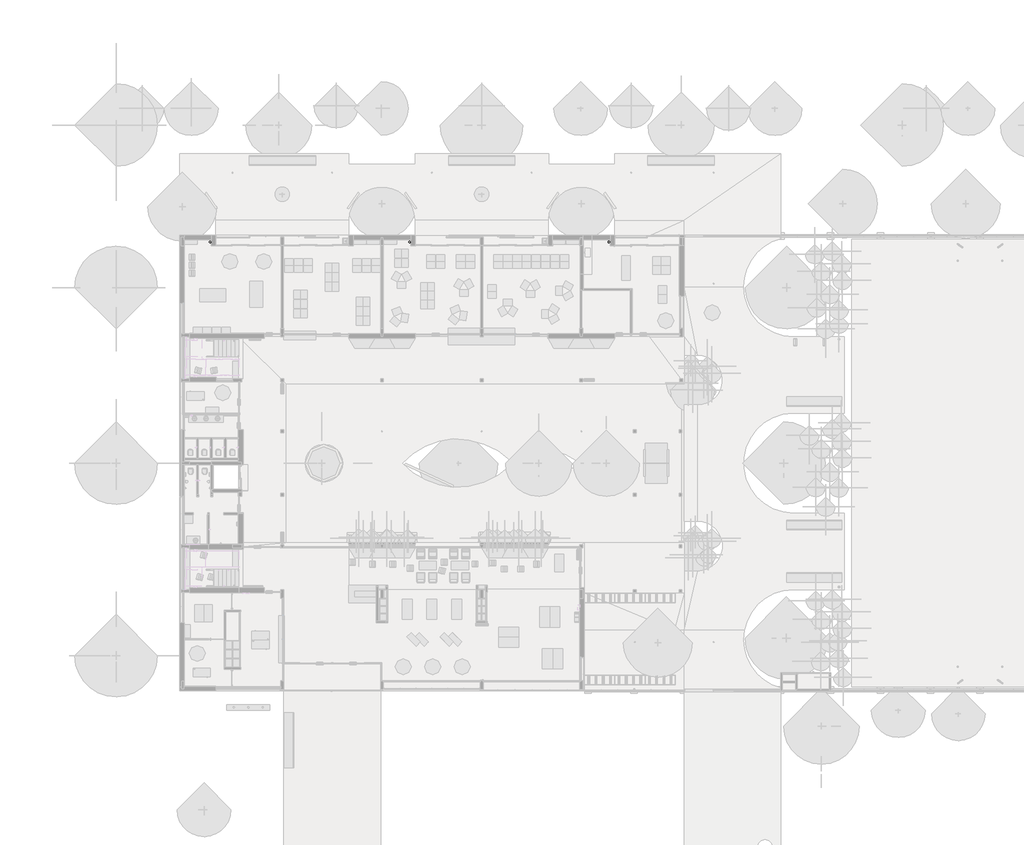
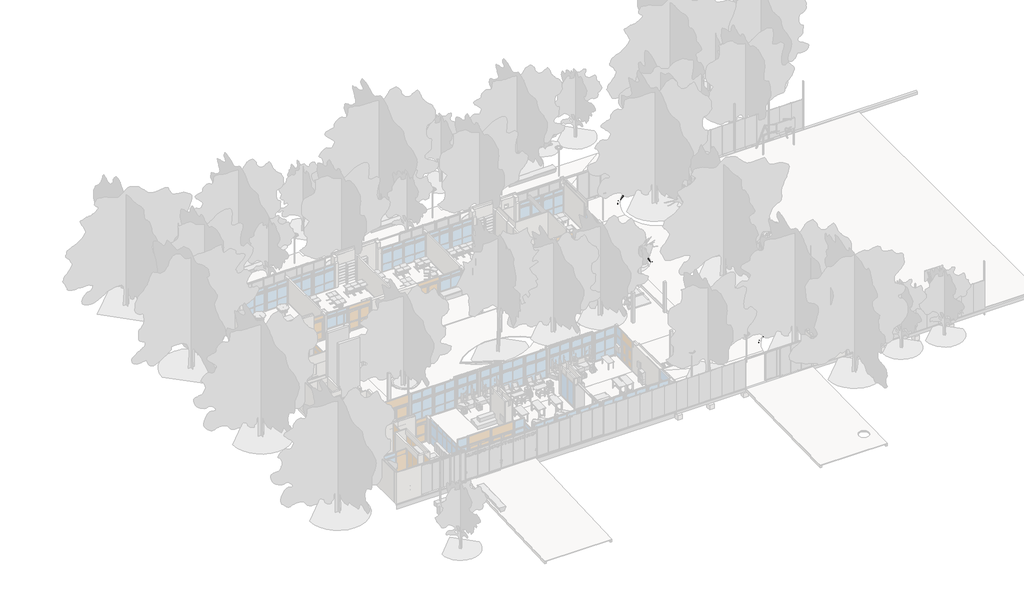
# One storey, part 10 of 22: 2 slabs.
"""IFC4 building model written with IfcOpenShell, lengths in millimetres."""

from ifc_helpers import new_model, si_unit, frame, origin, place, context, project, spatial, polyline, circle_curve, outline, extrude, element, save
from ifc_brep_helpers import plane_surface, revolved_surface, advanced_brep

model = new_model("IFC4")

# Units and contexts
model_context = context("Model", 3, world=origin())
ifc_project = project(units=[si_unit("LENGTHUNIT", "METRE", prefix="MILLI")], contexts=[model_context])

# Site, building, storey
site = spatial("IfcSite", under=ifc_project)
building = spatial("IfcBuilding", under=site)
storey = spatial("IfcBuildingStorey", under=building, Name="PLanta baja", Elevation=0.0)

# Slabs
placement = place(None, origin())
element("IfcSlab", 1, ObjectType="LOSA-INT-HA-11cm-PET", at=placement, inside=storey, context=model_context, shape_type="SweptSolid", body=[
    extrude(outline(polyline([(7168.7173694, 21620.2304035), (7168.7173694, 19420.2304035), (3388.7173693, 19420.2304035), (3388.7173693, 21620.2304035), (7168.7173694, 21620.2304035)])), frame((0.0, 0.0, -160.0), z_axis=(0.0, 0.0, 1.0), x_axis=(1.0, 0.0, 0.0)), (0.0, 0.0, 1.0), 110.0),
    extrude(outline(polyline([(6663.7173693, 31420.2304035), (6663.7173693, 28245.2304035), (3388.7173693, 28245.2304035), (3388.7173693, 31420.2304035), (6663.7173693, 31420.2304035)])), frame((0.0, 0.0, -160.0), z_axis=(0.0, 0.0, 1.0), x_axis=(1.0, 0.0, 0.0)), (0.0, 0.0, 1.0), 110.0),
    extrude(outline(polyline([(3388.7173693, 28095.2304035), (6663.7173693, 28095.2304035), (6663.7173693, 24920.2304035), (3388.7173693, 24920.2304035), (3388.7173693, 28095.2304035)])), frame((0.0, 0.0, -160.0), z_axis=(0.0, 0.0, 1.0), x_axis=(1.0, 0.0, 0.0)), (0.0, 0.0, 1.0), 110.0),
    extrude(outline(polyline([(6813.7173693, 24920.2304035), (6813.7173693, 28095.2304035), (10088.7173694, 28095.2304035), (10088.7173694, 24920.2304035), (6813.7173693, 24920.2304035)])), frame((0.0, 0.0, -160.0), z_axis=(0.0, 0.0, 1.0), x_axis=(1.0, 0.0, 0.0)), (0.0, 0.0, 1.0), 110.0),
    extrude(outline(polyline([(10088.7173694, 28245.2304035), (6813.7173693, 28245.2304035), (6813.7173693, 31420.2304035), (10088.7173694, 31420.2304035), (10088.7173694, 28245.2304035)])), frame((0.0, 0.0, -160.0), z_axis=(0.0, 0.0, 1.0), x_axis=(1.0, 0.0, 0.0)), (0.0, 0.0, 1.0), 110.0),
    extrude(outline(polyline([(13563.7173693, 31420.2304035), (13563.7173693, 28245.2304035), (10288.7173694, 28245.2304035), (10288.7173694, 31420.2304035), (13563.7173693, 31420.2304035)])), frame((0.0, 0.0, -160.0), z_axis=(0.0, 0.0, 1.0), x_axis=(1.0, 0.0, 0.0)), (0.0, 0.0, 1.0), 110.0),
    extrude(outline(polyline([(10288.7173694, 28095.2304035), (13563.7173693, 28095.2304035), (13563.7173693, 24920.2304035), (10288.7173694, 24920.2304035), (10288.7173694, 28095.2304035)])), frame((0.0, 0.0, -160.0), z_axis=(0.0, 0.0, 1.0), x_axis=(1.0, 0.0, 0.0)), (0.0, 0.0, 1.0), 110.0),
    extrude(outline(polyline([(13713.7173693, 24920.2304035), (13713.7173693, 28095.2304035), (16988.7173694, 28095.2304035), (16988.7173694, 24920.2304035), (13713.7173693, 24920.2304035)])), frame((0.0, 0.0, -160.0), z_axis=(0.0, 0.0, 1.0), x_axis=(1.0, 0.0, 0.0)), (0.0, 0.0, 1.0), 110.0),
    extrude(outline(polyline([(16988.7173694, 28245.2304035), (13713.7173693, 28245.2304035), (13713.7173693, 31420.2304035), (16988.7173694, 31420.2304035), (16988.7173694, 28245.2304035)])), frame((0.0, 0.0, -160.0), z_axis=(0.0, 0.0, 1.0), x_axis=(1.0, 0.0, 0.0)), (0.0, 0.0, 1.0), 110.0),
    extrude(outline(polyline([(20463.7173694, 31420.2304035), (20463.7173694, 28245.2304035), (17188.7173694, 28245.2304035), (17188.7173694, 31420.2304035), (20463.7173694, 31420.2304035)])), frame((0.0, 0.0, -160.0), z_axis=(0.0, 0.0, 1.0), x_axis=(1.0, 0.0, 0.0)), (0.0, 0.0, 1.0), 110.0),
    extrude(outline(polyline([(17188.7173694, 28095.2304035), (20463.7173694, 28095.2304035), (20463.7173694, 24920.2304035), (17188.7173694, 24920.2304035), (17188.7173694, 28095.2304035)])), frame((0.0, 0.0, -160.0), z_axis=(0.0, 0.0, 1.0), x_axis=(1.0, 0.0, 0.0)), (0.0, 0.0, 1.0), 110.0),
    extrude(outline(polyline([(20613.7173694, 24920.2304035), (20613.7173694, 28095.2304035), (23888.7173694, 28095.2304035), (23888.7173694, 24920.2304035), (20613.7173694, 24920.2304035)])), frame((0.0, 0.0, -160.0), z_axis=(0.0, 0.0, 1.0), x_axis=(1.0, 0.0, 0.0)), (0.0, 0.0, 1.0), 110.0),
    extrude(outline(polyline([(23888.7173694, 28245.2304035), (20613.7173694, 28245.2304035), (20613.7173694, 31420.2304035), (23888.7173694, 31420.2304035), (23888.7173694, 28245.2304035)])), frame((0.0, 0.0, -160.0), z_axis=(0.0, 0.0, 1.0), x_axis=(1.0, 0.0, 0.0)), (0.0, 0.0, 1.0), 110.0),
    extrude(outline(polyline([(27363.7173693, 31420.2304035), (27363.7173693, 28245.2304035), (24088.7173694, 28245.2304035), (24088.7173694, 31420.2304035), (27363.7173693, 31420.2304035)])), frame((0.0, 0.0, -160.0), z_axis=(0.0, 0.0, 1.0), x_axis=(1.0, 0.0, 0.0)), (0.0, 0.0, 1.0), 110.0),
    extrude(outline(polyline([(24088.7173694, 28095.2304035), (27363.7173693, 28095.2304035), (27363.7173693, 24920.2304035), (24088.7173694, 24920.2304035), (24088.7173694, 28095.2304035)])), frame((0.0, 0.0, -160.0), z_axis=(0.0, 0.0, 1.0), x_axis=(1.0, 0.0, 0.0)), (0.0, 0.0, 1.0), 110.0),
    extrude(outline(polyline([(27513.7173693, 24920.2304035), (27513.7173693, 28095.2304035), (30788.7173693, 28095.2304035), (30788.7173693, 24920.2304035), (27513.7173693, 24920.2304035)])), frame((0.0, 0.0, -160.0), z_axis=(0.0, 0.0, 1.0), x_axis=(1.0, 0.0, 0.0)), (0.0, 0.0, 1.0), 110.0),
    extrude(outline(polyline([(30788.7173693, 28245.2304035), (27513.7173693, 28245.2304035), (27513.7173693, 31420.2304035), (30788.7173693, 31420.2304035), (30788.7173693, 28245.2304035)])), frame((0.0, 0.0, -160.0), z_axis=(0.0, 0.0, 1.0), x_axis=(1.0, 0.0, 0.0)), (0.0, 0.0, 1.0), 110.0),
    extrude(outline(polyline([(34263.7173693, 31420.2304035), (34263.7173693, 28245.2304035), (30988.7173693, 28245.2304035), (30988.7173693, 31420.2304035), (34263.7173693, 31420.2304035)])), frame((0.0, 0.0, -160.0), z_axis=(0.0, 0.0, 1.0), x_axis=(1.0, 0.0, 0.0)), (0.0, 0.0, 1.0), 110.0),
    extrude(outline(polyline([(30988.7173693, 28095.2304035), (34263.7173693, 28095.2304035), (34263.7173693, 24920.2304035), (30988.7173693, 24920.2304035), (30988.7173693, 28095.2304035)])), frame((0.0, 0.0, -160.0), z_axis=(0.0, 0.0, 1.0), x_axis=(1.0, 0.0, 0.0)), (0.0, 0.0, 1.0), 110.0),
    extrude(outline(polyline([(34413.7173693, 24920.2304035), (34413.7173693, 28095.2304035), (37688.7173693, 28095.2304035), (37688.7173693, 24920.2304035), (34413.7173693, 24920.2304035)])), frame((0.0, 0.0, -160.0), z_axis=(0.0, 0.0, 1.0), x_axis=(1.0, 0.0, 0.0)), (0.0, 0.0, 1.0), 110.0),
    extrude(outline(polyline([(37688.7173693, 28245.2304035), (34413.7173693, 28245.2304035), (34413.7173693, 31420.2304035), (37688.7173693, 31420.2304035), (37688.7173693, 28245.2304035)])), frame((0.0, 0.0, -160.0), z_axis=(0.0, 0.0, 1.0), x_axis=(1.0, 0.0, 0.0)), (0.0, 0.0, 1.0), 110.0),
])
element("IfcSlab", 2, ObjectType="Sub base Green Block 40 cm", at=placement, inside=storey, context=model_context, shape_type="AdvancedBrep", body=[
    advanced_brep(
    [(44688.7173693, 210.2304035, -550.0), (37998.4930104, 210.2304035, -550.0), (37998.4930104, 8355.2304035, -550.0), (38943.1270902, 8355.2304035, -550.0), (38943.1270902, 12105.2304035, -550.0), (37998.4930104, 12105.2304035, -550.0), (37998.4930104, 19845.2304035, -550.0), (38943.1270902, 19845.2304035, -550.0), (38943.1270902, 23585.2304035, -550.0), (37888.7173693, 23585.2304035, -550.0), (37888.7173693, 24720.3804035, -550.0), (37888.7173693, 31620.2304035, -550.0), (37888.7173693, 31730.2304035, -550.0), (33338.7173693, 31730.2304035, -550.0), (33338.7173693, 32780.2304035, -550.0), (28438.7173693, 32780.2304035, -550.0), (28438.7173693, 31620.2304035, -550.0), (19388.7173693, 31620.2304035, -550.0), (19388.7173693, 32780.2304035, -550.0), (14788.7173693, 32780.2304035, -550.0), (14788.7173693, 31730.2304035, -550.0), (5588.7173693, 31730.2304035, -550.0), (5588.7173693, 32780.2304035, -550.0), (3288.7173693, 35080.2304035, -550.0), (3078.7173694, 35080.2304035, -550.0), (3078.7173694, 37370.2304035, -550.0), (14788.7173693, 37370.2304035, -550.0), (14788.7173693, 36669.2072726, -550.0), (19388.7173693, 36669.2072726, -550.0), (19388.7173693, 37370.2304035, -550.0), (28646.6750048, 37370.2304035, -550.0), (28646.6750048, 36669.2072726, -550.0), (33188.7173693, 36669.2072726, -550.0), (33188.7173693, 37370.2304035, -550.0), (44688.7173693, 37370.2304035, -550.0), (44688.7173693, 31665.6687102, -550.0), (45550.0599516, 24570.2304035, -550.0), (49097.2173693, 24570.2304035, -550.0), (49097.2173693, 19570.2304035, -550.0), (45550.0599516, 19570.2304035, -550.0), (45550.0599516, 12370.2304035, -550.0), (49097.2173693, 12370.2304035, -550.0), (49097.2173693, 7370.2298588, -550.0), (45550.0665822, 7370.2298588, -550.0), (44688.7173693, 274.7931861, -550.0), (24638.7173693, 34580.2304035, -550.0), (23338.7173693, 34580.2304035, -550.0), (10838.7173693, 34580.2304035, -550.0), (9538.7173693, 34580.2304035, -550.0), (44688.7173693, 37370.2304035, -150.0), (33188.7173693, 37370.2304035, -150.0), (33188.7173693, 36669.2072726, -150.0), (28646.6750048, 36669.2072726, -150.0), (28646.6750048, 37370.2304035, -150.0), (19388.7173693, 37370.2304035, -150.0), (19388.7173693, 36669.2072726, -150.0), (14788.7173693, 36669.2072726, -150.0), (14788.7173693, 37370.2304035, -150.0), (3078.7173694, 37370.2304035, -150.0), (3078.7173694, 35080.2304035, -150.0), (3288.7173693, 35080.2304035, -150.0), (5588.7173693, 32780.2304035, -150.0), (5588.7173693, 31730.2304035, -150.0), (14788.7173693, 31730.2304035, -150.0), (14788.7173693, 32780.2304035, -150.0), (19388.7173693, 32780.2304035, -150.0), (19388.7173693, 31730.2304035, -150.0), (28438.7173693, 31730.2304035, -150.0), (28438.7173693, 32780.2304035, -150.0), (33338.7173693, 32780.2304035, -150.0), (33338.7173693, 31730.2304035, -150.0), (37998.7173693, 31730.2304035, -150.0), (37998.7173693, 23585.2304035, -150.0), (38943.1270902, 23585.2304035, -150.0), (38943.1270902, 19845.2304035, -150.0), (37998.7173693, 19845.2304035, -150.0), (37998.4930104, 19845.2304035, -150.0), (37998.4930104, 12105.2304035, -150.0), (37998.7173693, 12105.2304035, -150.0), (38943.1270902, 12105.2304035, -150.0), (38943.1270902, 8355.2304035, -150.0), (37998.7173693, 8355.2304035, -150.0), (37998.4930104, 8355.2304035, -150.0), (37998.4930104, 360.2304035, -150.0), (44395.985253, 360.2304035, -150.0), (45550.0665822, 7370.2298588, -150.0), (49097.2173693, 7370.2298588, -150.0), (49097.2173693, 12370.2304035, -150.0), (45550.0599516, 12370.2304035, -150.0), (45550.0599516, 19570.2304035, -150.0), (49097.2173693, 19570.2304035, -150.0), (49097.2173693, 24570.2304035, -150.0), (45550.0599516, 24570.2304035, -150.0), (44418.8237967, 31587.8764884, -150.0), (38006.0173693, 31587.8764884, -150.0), (38006.0173693, 31787.8764884, -150.0), (44688.7173693, 31787.8764884, -150.0), (23338.7173693, 34580.2304035, -150.0), (24638.7173693, 34580.2304035, -150.0), (9538.7173693, 34580.2304035, -150.0), (10838.7173693, 34580.2304035, -150.0), (44688.7173693, 210.2304035, -350.0), (37998.4930104, 210.2304035, -350.0), (37888.7173693, 31730.2304035, -160.0), (37888.7173693, 23585.2304035, -190.0), (37888.7173693, 24720.3804035, -190.0), (37888.7173693, 24720.3804035, -160.0), (37888.7173693, 31620.2304035, -160.0), (37888.7173693, 31700.2304035, -160.0), (37888.7173693, 31710.2304035, -150.0), (37888.7173693, 31720.2304035, -160.0), (37998.4930104, 360.2304035, -350.0), (37998.4930104, 360.2304035, -290.0), (37998.4930104, 8355.2304035, -290.0), (37998.4930104, 12105.2304035, -290.0), (37998.4930104, 19845.2304035, -290.0), (44688.7173693, 31787.8764884, -350.0), (44688.7173693, 31665.6687102, -350.0), (37998.7173693, 31730.2304035, -160.0), (19388.7173693, 31730.2304035, -160.0), (28438.7173693, 31730.2304035, -160.0), (28438.7173693, 31720.2304035, -160.0), (28438.7173693, 31710.2304035, -150.0), (28438.7173693, 31700.2304035, -160.0), (28438.7173693, 31620.2304035, -160.0), (19388.7173693, 31620.2304035, -160.0), (19388.7173693, 31700.2304035, -160.0), (19388.7173693, 31710.2304035, -150.0), (19388.7173693, 31720.2304035, -160.0), (14788.7173693, 31730.2304035, -160.0), (5588.7173693, 31730.2304035, -160.0), (44688.7173693, 274.7931861, -350.0), (37998.7173693, 23585.2304035, -190.0), (44418.8237967, 31587.8764884, -350.0), (44395.985253, 360.2304035, -350.0), (37968.7173693, 31700.2304035, -160.0), (37978.7173693, 31710.2304035, -150.0), (37988.7173693, 31720.2304035, -160.0), (37988.7173693, 24720.3804035, -160.0), (37998.7173693, 24720.3804035, -160.0), (37968.7173693, 24720.3804035, -160.0), (37978.7173693, 24720.3804035, -150.0), (37998.7173693, 24720.3804035, -190.0), (38006.0173693, 31587.8764884, -350.0), (38006.0173693, 31787.8764884, -350.0)],
    [
        (0, 1),
        (1, 2),
        (2, 3),
        (3, 4, circle_curve(frame((38943.1270902, 10230.2304035, -550.0), z_axis=(0.0, 0.0, 1.0), x_axis=(1.0, 0.0, 0.0)), 1875.0)),
        (4, 5),
        (5, 6),
        (6, 7),
        (7, 8, circle_curve(frame((38943.1270902, 21715.2304035, -550.0), z_axis=(0.0, 0.0, 1.0), x_axis=(1.0, 0.0, 0.0)), 1870.0)),
        (8, 9),
        (9, 10),
        (10, 11),
        (11, 12),
        (12, 13),
        (13, 14),
        (14, 15, circle_curve(frame((30888.7173693, 32780.2304035, -550.0), z_axis=(0.0, 0.0, 1.0), x_axis=(1.0, 0.0, 0.0)), 2450.0)),
        (15, 16),
        (16, 17),
        (17, 18),
        (18, 19, circle_curve(frame((17088.7173693, 32780.2304035, -550.0), z_axis=(0.0, 0.0, 1.0), x_axis=(1.0, 0.0, 0.0)), 2300.0)),
        (19, 20),
        (20, 21),
        (21, 22),
        (22, 23, circle_curve(frame((3288.7173693, 32780.2304035, -550.0), z_axis=(0.0, 0.0, 1.0), x_axis=(1.0, 0.0, 0.0)), 2300.0)),
        (23, 24),
        (24, 25),
        (25, 26),
        (26, 27),
        (27, 28),
        (28, 29),
        (29, 30),
        (30, 31),
        (31, 32),
        (32, 33),
        (33, 34),
        (34, 35),
        (35, 36, circle_curve(frame((45550.0599516, 28170.2304035, -550.0), z_axis=(0.0, 0.0, 1.0), x_axis=(1.0, 0.0, 0.0)), 3600.0)),
        (36, 37),
        (37, 38),
        (38, 39),
        (39, 40, circle_curve(frame((45550.0599516, 15970.2304035, -550.0), z_axis=(0.0, 0.0, 1.0), x_axis=(1.0, 0.0, 0.0)), 3600.0)),
        (40, 41),
        (41, 42),
        (42, 43),
        (43, 44, circle_curve(frame((45550.0665822, 3770.2298588, -550.0), z_axis=(0.0, 0.0, 1.0), x_axis=(1.0, 0.0, 0.0)), 3600.0)),
        (44, 0),
        (45, 46, circle_curve(frame((23988.7173693, 34580.2304035, -550.0), z_axis=(0.0, 0.0, 1.0), x_axis=(1.0, 0.0, 0.0)), 650.0)),
        (46, 45, circle_curve(frame((23988.7173693, 34580.2304035, -550.0), z_axis=(0.0, 0.0, 1.0), x_axis=(1.0, 0.0, 0.0)), 650.0)),
        (47, 48, circle_curve(frame((10188.7173693, 34580.2304035, -550.0), z_axis=(0.0, 0.0, 1.0), x_axis=(1.0, 0.0, 0.0)), 650.0)),
        (48, 47, circle_curve(frame((10188.7173693, 34580.2304035, -550.0), z_axis=(0.0, 0.0, 1.0), x_axis=(1.0, 0.0, 0.0)), 650.0)),
        (49, 50),
        (50, 51),
        (51, 52),
        (52, 53),
        (53, 54),
        (54, 55),
        (55, 56),
        (56, 57),
        (57, 58),
        (58, 59),
        (59, 60),
        (60, 61, circle_curve(frame((3288.7173693, 32780.2304035, -150.0), z_axis=(0.0, 0.0, -1.0), x_axis=(1.0, 0.0, 0.0)), 2300.0)),
        (61, 62),
        (62, 63),
        (63, 64),
        (64, 65, circle_curve(frame((17088.7173693, 32780.2304035, -150.0), z_axis=(0.0, 0.0, -1.0), x_axis=(1.0, 0.0, 0.0)), 2300.0)),
        (65, 66),
        (66, 67),
        (67, 68),
        (68, 69, circle_curve(frame((30888.7173693, 32780.2304035, -150.0), z_axis=(0.0, 0.0, -1.0), x_axis=(1.0, 0.0, 0.0)), 2450.0)),
        (69, 70),
        (70, 71),
        (71, 72),
        (72, 73),
        (73, 74, circle_curve(frame((38943.1270902, 21715.2304035, -150.0), z_axis=(0.0, 0.0, -1.0), x_axis=(1.0, 0.0, 0.0)), 1870.0)),
        (74, 75),
        (75, 76),
        (76, 77),
        (77, 78),
        (78, 79),
        (79, 80, circle_curve(frame((38943.1270902, 10230.2304035, -150.0), z_axis=(0.0, 0.0, -1.0), x_axis=(1.0, 0.0, 0.0)), 1875.0)),
        (80, 81),
        (81, 82),
        (82, 83),
        (83, 84),
        (84, 85, circle_curve(frame((45550.0665822, 3770.2298588, -150.0), z_axis=(0.0, 0.0, -1.0), x_axis=(1.0, 0.0, 0.0)), 3600.0)),
        (85, 86),
        (86, 87),
        (87, 88),
        (88, 89, circle_curve(frame((45550.0599516, 15970.2304035, -150.0), z_axis=(0.0, 0.0, -1.0), x_axis=(1.0, 0.0, 0.0)), 3600.0)),
        (89, 90),
        (90, 91),
        (91, 92),
        (92, 93, circle_curve(frame((45550.0599516, 28170.2304035, -150.0), z_axis=(0.0, 0.0, -1.0), x_axis=(1.0, 0.0, 0.0)), 3600.0)),
        (93, 94),
        (94, 95),
        (95, 96),
        (96, 49),
        (97, 98, circle_curve(frame((23988.7173693, 34580.2304035, -150.0), z_axis=(0.0, 0.0, -1.0), x_axis=(1.0, 0.0, 0.0)), 650.0)),
        (98, 97, circle_curve(frame((23988.7173693, 34580.2304035, -150.0), z_axis=(0.0, 0.0, -1.0), x_axis=(1.0, 0.0, 0.0)), 650.0)),
        (99, 100, circle_curve(frame((10188.7173693, 34580.2304035, -150.0), z_axis=(0.0, 0.0, -1.0), x_axis=(1.0, 0.0, 0.0)), 650.0)),
        (100, 99, circle_curve(frame((10188.7173693, 34580.2304035, -150.0), z_axis=(0.0, 0.0, -1.0), x_axis=(1.0, 0.0, 0.0)), 650.0)),
        (0, 101),
        (101, 102),
        (102, 1),
        (103, 12),
        (9, 104),
        (104, 105),
        (105, 106),
        (106, 107),
        (107, 108),
        (108, 109),
        (109, 110),
        (110, 103),
        (33, 50),
        (49, 34),
        (37, 91),
        (90, 38),
        (102, 111),
        (111, 112),
        (112, 83),
        (82, 113),
        (113, 2),
        (5, 114),
        (114, 77),
        (76, 115),
        (115, 6),
        (96, 116),
        (116, 117),
        (117, 35),
        (41, 87),
        (86, 42),
        (103, 118),
        (118, 71),
        (70, 13),
        (66, 119),
        (119, 120),
        (120, 67),
        (69, 14),
        (15, 68),
        (120, 121),
        (121, 122),
        (122, 123),
        (123, 124),
        (124, 16),
        (124, 125),
        (125, 17),
        (125, 126),
        (126, 127),
        (127, 128),
        (128, 119),
        (65, 18),
        (19, 64),
        (63, 129),
        (129, 20),
        (62, 130),
        (130, 21),
        (61, 22),
        (25, 58),
        (57, 26),
        (56, 27),
        (55, 28),
        (54, 29),
        (53, 30),
        (52, 31),
        (51, 32),
        (23, 60),
        (59, 24),
        (89, 39),
        (40, 88),
        (36, 92),
        (44, 131),
        (131, 101),
        (80, 3),
        (79, 4),
        (74, 7),
        (73, 8),
        (72, 132),
        (132, 104),
        (117, 133, circle_curve(frame((45550.0599516, 28170.2304035, -350.0), z_axis=(0.0, 0.0, 1.0), x_axis=(1.0, 0.0, 0.0)), 3600.0)),
        (133, 93),
        (85, 43),
        (84, 134),
        (134, 131, circle_curve(frame((45550.0665822, 3770.2298588, -350.0), z_axis=(0.0, 0.0, 1.0), x_axis=(1.0, 0.0, 0.0)), 3600.0)),
        (45, 98),
        (97, 46),
        (47, 100),
        (99, 48),
        (122, 127),
        (126, 123),
        (108, 135),
        (135, 136),
        (136, 109),
        (121, 128),
        (137, 110),
        (136, 137),
        (137, 138),
        (138, 139),
        (139, 118),
        (106, 140),
        (140, 135),
        (140, 141),
        (141, 136),
        (141, 138),
        (139, 142),
        (142, 132),
        (142, 105),
        (111, 134),
        (143, 144),
        (144, 95),
        (94, 143),
        (133, 143),
        (116, 144),
    ],
    [
        plane_surface(frame((37998.4930104, 210.2304035, -550.0), z_axis=(0.0, 0.0, -1.0), x_axis=(-1.0, 0.0, 0.0))),
        plane_surface(frame((37998.4930104, 210.2304035, -150.0), z_axis=(0.0, 0.0, 1.0), x_axis=(1.0, 0.0, 0.0))),
        plane_surface(frame((44688.7173693, 210.2304035, -550.0), z_axis=(0.0, -1.0, 0.0), x_axis=(0.0, 0.0, 1.0))),
        plane_surface(frame((37888.7173693, 23585.2304035, -550.0), z_axis=(-1.0, 0.0, 0.0), x_axis=(0.0, 0.0, 1.0))),
        plane_surface(frame((33188.7173693, 37370.2304035, -550.0), z_axis=(0.0, 1.0, 0.0), x_axis=(0.0, 0.0, 1.0))),
        plane_surface(frame((49097.2173693, 24570.2304035, -550.0), z_axis=(1.0, 0.0, 0.0), x_axis=(0.0, 0.0, 1.0))),
        plane_surface(frame((37998.4930104, 210.2304035, -550.0), z_axis=(-1.0, 0.0, 0.0), x_axis=(0.0, 0.0, 1.0))),
        plane_surface(frame((37998.4930104, 12105.2304035, -550.0), z_axis=(-1.0, 0.0, 0.0), x_axis=(0.0, 0.0, 1.0))),
        plane_surface(frame((44688.7173693, 37370.2304035, -550.0), z_axis=(1.0, 0.0, 0.0), x_axis=(0.0, 0.0, 1.0))),
        plane_surface(frame((49097.2173693, 12370.2304035, -550.0), z_axis=(1.0, 0.0, 0.0), x_axis=(0.0, 0.0, 1.0))),
        plane_surface(frame((37888.7173693, 31730.2304035, -550.0), z_axis=(0.0, -1.0, 0.0), x_axis=(0.0, 0.0, 1.0))),
        plane_surface(frame((33338.7173693, 31730.2304035, -550.0), z_axis=(-1.0, 0.0, 0.0), x_axis=(0.0, 0.0, 1.0))),
        plane_surface(frame((28438.7173693, 32780.2304035, -550.0), z_axis=(1.0, 0.0, 0.0), x_axis=(0.0, 0.0, 1.0))),
        plane_surface(frame((28438.7173693, 31620.2304035, -550.0), z_axis=(0.0, -1.0, 0.0), x_axis=(0.0, 0.0, 1.0))),
        plane_surface(frame((19388.7173693, 31620.2304035, -550.0), z_axis=(-1.0, -5.645845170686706e-12, 0.0), x_axis=(0.0, 0.0, 1.0))),
        plane_surface(frame((14788.7173693, 32780.2304035, -550.0), z_axis=(1.0, 0.0, 0.0), x_axis=(0.0, 0.0, 1.0))),
        plane_surface(frame((14788.7173693, 31730.2304035, -550.0), z_axis=(0.0, -1.0, 0.0), x_axis=(0.0, 0.0, 1.0))),
        plane_surface(frame((5588.7173693, 31730.2304035, -550.0), z_axis=(-1.0, 0.0, 0.0), x_axis=(0.0, 0.0, 1.0))),
        plane_surface(frame((3078.7173694, 37370.2304035, -550.0), z_axis=(0.0, 1.0, 0.0), x_axis=(0.0, 0.0, 1.0))),
        plane_surface(frame((14788.7173693, 37370.2304035, -550.0), z_axis=(1.0, 0.0, 0.0), x_axis=(0.0, 0.0, 1.0))),
        plane_surface(frame((14788.7173693, 36669.2072726, -550.0), z_axis=(0.0, 1.0, 0.0), x_axis=(0.0, 0.0, 1.0))),
        plane_surface(frame((19388.7173693, 36669.2072726, -550.0), z_axis=(-1.0, 0.0, 0.0), x_axis=(0.0, 0.0, 1.0))),
        plane_surface(frame((19388.7173693, 37370.2304035, -550.0), z_axis=(0.0, 1.0, 0.0), x_axis=(0.0, 0.0, 1.0))),
        plane_surface(frame((28646.6750048, 37370.2304035, -550.0), z_axis=(1.0, 0.0, 0.0), x_axis=(0.0, 0.0, 1.0))),
        plane_surface(frame((28646.6750048, 36669.2072726, -550.0), z_axis=(0.0, 1.0, 0.0), x_axis=(0.0, 0.0, 1.0))),
        plane_surface(frame((33188.7173693, 36669.2072726, -550.0), z_axis=(-1.0, 0.0, 0.0), x_axis=(0.0, 0.0, 1.0))),
        plane_surface(frame((3288.7173693, 35080.2304035, -550.0), z_axis=(0.0, -1.0, 0.0), x_axis=(0.0, 0.0, 1.0))),
        plane_surface(frame((3078.7173694, 35080.2304035, -550.0), z_axis=(-1.0, 0.0, 0.0), x_axis=(0.0, 0.0, 1.0))),
        plane_surface(frame((49097.2173693, 19570.2304035, -550.0), z_axis=(0.0, -1.0, 0.0), x_axis=(0.0, 0.0, 1.0))),
        plane_surface(frame((45550.0599516, 12370.2304035, -550.0), z_axis=(0.0, 1.0, 0.0), x_axis=(0.0, 0.0, 1.0))),
        plane_surface(frame((45550.0599516, 24570.2304035, -550.0), z_axis=(0.0, 1.0, 0.0), x_axis=(0.0, 0.0, 1.0))),
        plane_surface(frame((44688.7173693, 274.7931861, -550.0), z_axis=(1.0, 0.0, 0.0), x_axis=(0.0, 0.0, 1.0))),
        plane_surface(frame((37998.4930104, 8355.2304035, -550.0), z_axis=(0.0, 1.0, 0.0), x_axis=(0.0, 0.0, 1.0))),
        revolved_surface(polyline([(40818.1270902, 10230.2304035, -150.0), (40818.1270902, 10230.2304035, -550.0)]), (38943.1270902, 10230.2304035, -150.0), (0.0, 0.0, 1.0)),
        plane_surface(frame((38943.1270902, 12105.2304035, -550.0), z_axis=(0.0, -1.0, 0.0), x_axis=(0.0, 0.0, 1.0))),
        plane_surface(frame((37998.4930104, 19845.2304035, -550.0), z_axis=(0.0, 1.0, 0.0), x_axis=(0.0, 0.0, 1.0))),
        revolved_surface(polyline([(40813.1270902, 21715.2304035, -150.0), (40813.1270902, 21715.2304035, -550.0)]), (38943.1270902, 21715.2304035, -150.0), (0.0, 0.0, 1.0)),
        plane_surface(frame((38943.1270902, 23585.2304035, -550.0), z_axis=(0.0, -1.0, 0.0), x_axis=(0.0, 0.0, 1.0))),
        revolved_surface(polyline([(33338.7173693, 32780.2304035, -150.0), (33338.7173693, 32780.2304035, -550.0)]), (30888.7173693, 32780.2304035, -150.0), (0.0, 0.0, 1.0)),
        revolved_surface(polyline([(19388.7173693, 32780.2304035, -150.0), (19388.7173693, 32780.2304035, -550.0)]), (17088.7173693, 32780.2304035, -150.0), (0.0, 0.0, 1.0)),
        revolved_surface(polyline([(5588.7173693, 32780.2304035, -150.0), (5588.7173693, 32780.2304035, -550.0)]), (3288.7173693, 32780.2304035, -150.0), (0.0, 0.0, 1.0)),
        revolved_surface(polyline([(49150.0599516, 28170.2304035, -150.0), (49150.0599516, 28170.2304035, -550.0)]), (45550.0599516, 28170.2304035, -150.0), (0.0, 0.0, 1.0)),
        revolved_surface(polyline([(49150.0599516, 15970.2304035, -150.0), (49150.0599516, 15970.2304035, -550.0)]), (45550.0599516, 15970.2304035, -150.0), (0.0, 0.0, 1.0)),
        plane_surface(frame((49097.2173693, 7370.2298588, -550.0), z_axis=(0.0, -1.0, 0.0), x_axis=(0.0, 0.0, 1.0))),
        revolved_surface(polyline([(49150.0665822, 3770.2298588, -150.0), (49150.0665822, 3770.2298588, -550.0)]), (45550.0665822, 3770.2298588, -150.0), (0.0, 0.0, 1.0)),
        revolved_surface(polyline([(24638.7173693, 34580.2304035, -150.0), (24638.7173693, 34580.2304035, -550.0)]), (23988.7173693, 34580.2304035, 0.0), (0.0, 0.0, 1.0)),
        revolved_surface(polyline([(10838.7173693, 34580.2304035, -150.0), (10838.7173693, 34580.2304035, -550.0)]), (10188.7173693, 34580.2304035, 0.0), (0.0, 0.0, 1.0)),
        plane_surface(frame((37688.7173693, 31700.2304035, -160.0), z_axis=(0.0, -0.7071067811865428, 0.7071067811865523), x_axis=(-1.0, 0.0, 0.0))),
        plane_surface(frame((37688.7173693, 31710.2304035, -150.0), z_axis=(0.0, 0.70710678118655, 0.7071067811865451), x_axis=(-1.0, 0.0, 0.0))),
        plane_surface(frame((37688.7173693, 31720.2304035, -160.0), z_axis=(0.0, 0.0, 1.0), x_axis=(-1.0, 0.0, 0.0))),
        plane_surface(frame((37688.7173693, 31620.2304035, -160.0), z_axis=(0.0, 0.0, 1.0), x_axis=(-1.0, 0.0, 0.0))),
        plane_surface(frame((37968.7173693, 24720.3804035, -160.0), z_axis=(-0.7071067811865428, 0.0, 0.7071067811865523), x_axis=(0.0, 1.0, 0.0))),
        plane_surface(frame((37978.7173693, 24720.3804035, -150.0), z_axis=(0.70710678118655, 0.0, 0.7071067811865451), x_axis=(0.0, 1.0, 0.0))),
        plane_surface(frame((37998.7173693, 24720.3804035, -160.0), z_axis=(-1.0, 0.0, 0.0), x_axis=(0.0, 1.0, 0.0))),
        plane_surface(frame((10088.7173694, 24720.2304035, -190.0), z_axis=(0.0, 0.0, 1.0), x_axis=(0.0, -1.0, 0.0))),
        plane_surface(frame((37888.7173693, 24720.3804035, -190.0), z_axis=(0.0, -1.0, 0.0), x_axis=(0.0, 0.0, 1.0))),
        plane_surface(frame((73288.5673693, 360.2304035, -50.0), z_axis=(0.0, -1.0, 0.0), x_axis=(-1.0, 0.0, 0.0))),
        plane_surface(frame((73288.5673693, 360.2304035, -350.0), z_axis=(0.0, 0.0, 1.0), x_axis=(-1.0, 0.0, 0.0))),
        plane_surface(frame((38006.0173693, 31687.8764884, -200.0), z_axis=(1.0, 0.0, 0.0), x_axis=(0.0, 0.0, 1.0))),
        plane_surface(frame((38006.0173693, 31587.8764884, -50.0), z_axis=(0.0, 1.0, 0.0), x_axis=(1.0, 0.0, 0.0))),
        plane_surface(frame((38006.0173693, 31587.8764884, -350.0), z_axis=(0.0, 0.0, 1.0), x_axis=(1.0, 0.0, 0.0))),
        plane_surface(frame((38006.0173693, 31787.8764884, -350.0), z_axis=(0.0, -1.0, 0.0), x_axis=(1.0, 0.0, 0.0))),
    ],
    [
        (0, [[1, 2, 3, 4, 5, 6, 7, 8, 9, 10, 11, 12, 13, 14, 15, 16, 17, 18, 19, 20, 21, 22, 23, 24, 25, 26, 27, 28, 29, 30, 31, 32, 33, 34, 35, 36, 37, 38, 39, 40, 41, 42, 43, 44, 45], [46, 47], [48, 49]]),
        (1, [[50, 51, 52, 53, 54, 55, 56, 57, 58, 59, 60, 61, 62, 63, 64, 65, 66, 67, 68, 69, 70, 71, 72, 73, 74, 75, 76, 77, 78, 79, 80, 81, 82, 83, 84, 85, 86, 87, 88, 89, 90, 91, 92, 93, 94, 95, 96, 97], [98, 99], [100, 101]]),
        (2, [[-1, 102, 103, 104]]),
        (3, [[105, -12, -11, -10, 106, 107, 108, 109, 110, 111, 112, 113]]),
        (4, [[-34, 114, -50, 115]]),
        (5, [[-38, 116, -91, 117]]),
        (6, [[-2, -104, 118, 119, 120, -83, 121, 122]]),
        (7, [[-6, 123, 124, -77, 125, 126]]),
        (8, [[-35, -115, -97, 127, 128, 129]]),
        (9, [[-42, 130, -87, 131]]),
        (10, [[-13, -105, 132, 133, -71, 134]]),
        (10, [[-67, 135, 136, 137]]),
        (11, [[-14, -134, -70, 138]]),
        (12, [[-16, 139, -68, -137, 140, 141, 142, 143, 144]]),
        (13, [[-17, -144, 145, 146]]),
        (14, [[-18, -146, 147, 148, 149, 150, -135, -66, 151]]),
        (15, [[-20, 152, -64, 153, 154]]),
        (16, [[-21, -154, -153, -63, 155, 156]]),
        (17, [[-22, -156, -155, -62, 157]]),
        (18, [[-26, 158, -58, 159]]),
        (19, [[-27, -159, -57, 160]]),
        (20, [[-28, -160, -56, 161]]),
        (21, [[-29, -161, -55, 162]]),
        (22, [[-30, -162, -54, 163]]),
        (23, [[-31, -163, -53, 164]]),
        (24, [[-32, -164, -52, 165]]),
        (25, [[-33, -165, -51, -114]]),
        (26, [[-24, 166, -60, 167]]),
        (27, [[-25, -167, -59, -158]]),
        (28, [[-39, -117, -90, 168]]),
        (29, [[-41, 169, -88, -130]]),
        (30, [[-37, 170, -92, -116]]),
        (31, [[-45, 171, 172, -102]]),
        (32, [[-3, -122, -121, -82, -81, 173]]),
        (33, [[-4, -173, -80, 174]]),
        (34, [[-5, -174, -79, -78, -124, -123]]),
        (35, [[-7, -126, -125, -76, -75, 175]]),
        (36, [[-8, -175, -74, 176]]),
        (37, [[-9, -176, -73, 177, 178, -106]]),
        (38, [[-15, -138, -69, -139]]),
        (39, [[-19, -151, -65, -152]]),
        (40, [[-23, -157, -61, -166]]),
        (41, [[-36, -129, 179, 180, -93, -170]]),
        (42, [[-40, -168, -89, -169]]),
        (43, [[-43, -131, -86, 181]]),
        (44, [[-44, -181, -85, 182, 183, -171]]),
        (45, [[-46, 184, -98, 185]]),
        (45, [[-47, -185, -99, -184]]),
        (46, [[-48, 186, -100, 187]]),
        (46, [[-49, -187, -101, -186]]),
        (47, [[188, -148, 189, -142]]),
        (47, [[190, 191, 192, -111]]),
        (48, [[-188, -141, 193, -149]]),
        (48, [[194, -112, -192, 195]]),
        (49, [[-140, -136, -150, -193]]),
        (49, [[-132, -113, -194, 196, 197, 198]]),
        (50, [[-143, -189, -147, -145]]),
        (50, [[-190, -110, -109, 199, 200]]),
        (51, [[-200, 201, 202, -191]]),
        (52, [[-202, 203, -196, -195]]),
        (53, [[-198, 204, 205, -177, -72, -133]]),
        (54, [[206, -107, -178, -205]]),
        (55, [[-206, -204, -197, -203, -201, -199, -108]]),
        (56, [[207, -182, -84, -120, -119]]),
        (57, [[-207, -118, -103, -172, -183]]),
        (58, [[208, 209, -95, 210]]),
        (59, [[-210, -94, -180, 211]]),
        (60, [[-208, -211, -179, -128, 212]]),
        (61, [[-209, -212, -127, -96]]),
    ],
),
])

save(model, "model.ifc")
